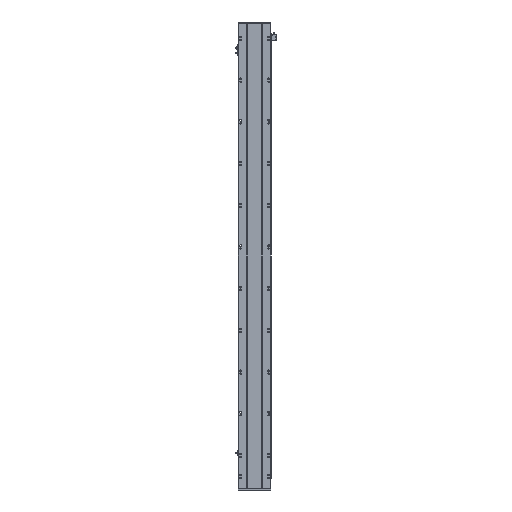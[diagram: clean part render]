
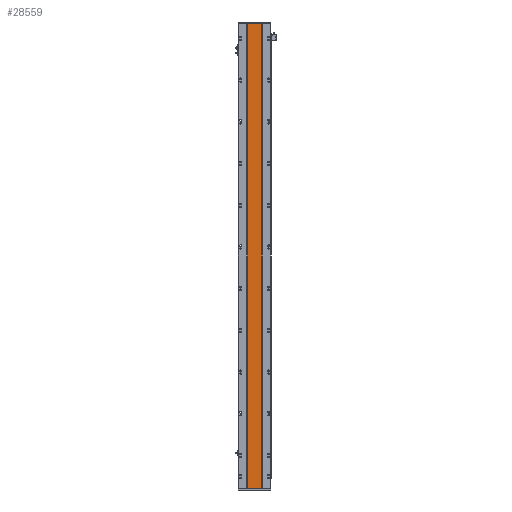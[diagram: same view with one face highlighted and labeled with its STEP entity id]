
A CAD part, front view. The second image highlights one B-rep face of the part: STEP entity #28559.
In plain terms, the highlighted planar face has unit normal (0, -1, 0).
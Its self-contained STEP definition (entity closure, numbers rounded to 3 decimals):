
#448 = LINE ( 'NONE', #34996, #30369 ) ;
#3907 = CARTESIAN_POINT ( 'NONE',  ( 205.288, 16.9, 2404. ) ) ;
#4371 = VECTOR ( 'NONE', #21940, 1000. ) ;
#5119 = CARTESIAN_POINT ( 'NONE',  ( 129.288, 16.9, 2404. ) ) ;
#8171 = EDGE_CURVE ( 'NONE', #43079, #12793, #33773, .T. ) ;
#8471 = ORIENTED_EDGE ( 'NONE', *, *, #16473, .T. ) ;
#9220 = LINE ( 'NONE', #20155, #17568 ) ;
#10506 = ORIENTED_EDGE ( 'NONE', *, *, #8171, .F. ) ;
#10912 = VERTEX_POINT ( 'NONE', #17497 ) ;
#11003 = DIRECTION ( 'NONE',  ( 1., 0., 0. ) ) ;
#12793 = VERTEX_POINT ( 'NONE', #3907 ) ;
#13278 = PLANE ( 'NONE',  #20431 ) ;
#16190 = FACE_OUTER_BOUND ( 'NONE', #40105, .T. ) ;
#16199 = DIRECTION ( 'NONE',  ( 0., 1., 0. ) ) ;
#16473 = EDGE_CURVE ( 'NONE', #20829, #10912, #41543, .T. ) ;
#16755 = DIRECTION ( 'NONE',  ( 0., 0., -1. ) ) ;
#17032 = CARTESIAN_POINT ( 'NONE',  ( 129.288, 16.9, 0. ) ) ;
#17497 = CARTESIAN_POINT ( 'NONE',  ( 205.288, 16.9, 0. ) ) ;
#17568 = VECTOR ( 'NONE', #16755, 1000. ) ;
#20155 = CARTESIAN_POINT ( 'NONE',  ( 205.288, 16.9, 2404. ) ) ;
#20431 = AXIS2_PLACEMENT_3D ( 'NONE', #26763, #16199, #22959 ) ;
#20829 = VERTEX_POINT ( 'NONE', #17032 ) ;
#21940 = DIRECTION ( 'NONE',  ( 1., 0., 0. ) ) ;
#22959 = DIRECTION ( 'NONE',  ( -1., 0., 0. ) ) ;
#23243 = EDGE_CURVE ( 'NONE', #12793, #10912, #9220, .T. ) ;
#23523 = ORIENTED_EDGE ( 'NONE', *, *, #28794, .T. ) ;
#24003 = CARTESIAN_POINT ( 'NONE',  ( 129.288, 16.9, 2404. ) ) ;
#24959 = DIRECTION ( 'NONE',  ( 0., 0., -1. ) ) ;
#26763 = CARTESIAN_POINT ( 'NONE',  ( 205.288, 16.9, 2404. ) ) ;
#28559 = ADVANCED_FACE ( 'NONE', ( #16190 ), #13278, .F. ) ;
#28794 = EDGE_CURVE ( 'NONE', #43079, #20829, #448, .T. ) ;
#29956 = VECTOR ( 'NONE', #11003, 1000. ) ;
#30369 = VECTOR ( 'NONE', #24959, 1000. ) ;
#33604 = CARTESIAN_POINT ( 'NONE',  ( 205.288, 16.9, 0. ) ) ;
#33773 = LINE ( 'NONE', #5119, #4371 ) ;
#34722 = ORIENTED_EDGE ( 'NONE', *, *, #23243, .F. ) ;
#34996 = CARTESIAN_POINT ( 'NONE',  ( 129.288, 16.9, 2404. ) ) ;
#40105 = EDGE_LOOP ( 'NONE', ( #8471, #34722, #10506, #23523 ) ) ;
#41543 = LINE ( 'NONE', #33604, #29956 ) ;
#43079 = VERTEX_POINT ( 'NONE', #24003 ) ;
